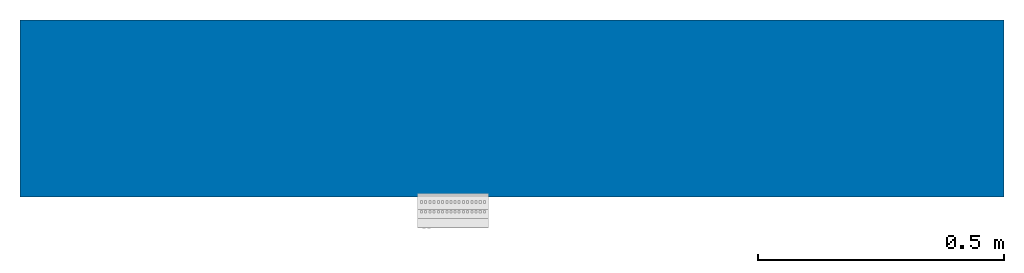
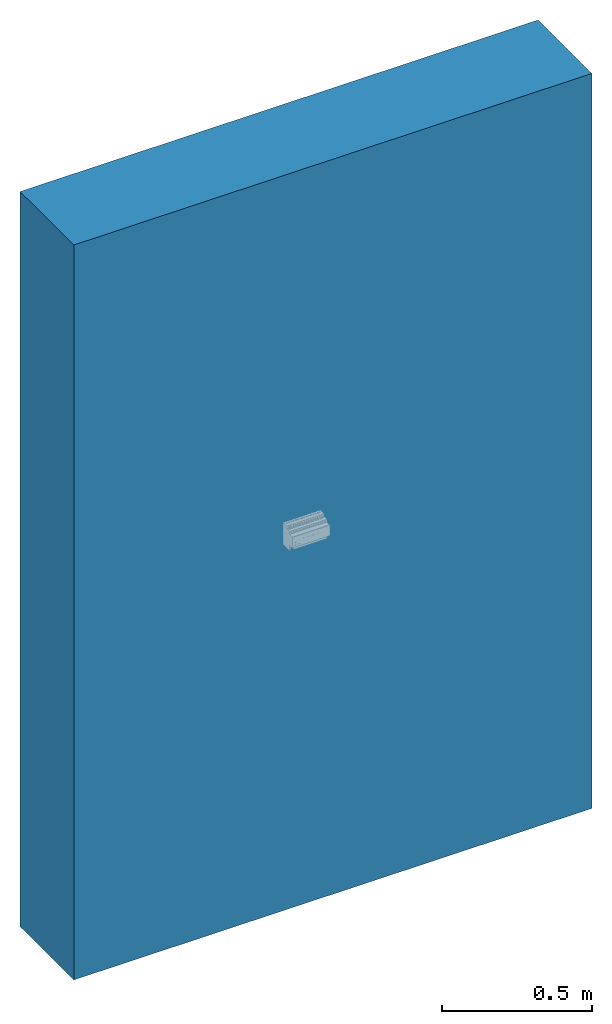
# One storey, incomplete: 1 wall.
"""IFC2X3 building model written with IfcOpenShell, lengths in metres."""

from ifc_helpers import new_model, entity, si_unit, converted_unit, derived_unit, direction, frame, frame_2d, origin, place, context, subcontext, project, spatial, rectangle, extrude, material, layer, layer_set, layer_usage, type_object, element, save


model = new_model("IFC2X3")

# Units and contexts
model_context = context("Model", 3, precision=1e-05, world=origin(), true_north=direction((6.12303176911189e-17, 1.0)))
body_context = subcontext(model_context, "Body", "Model", "MODEL_VIEW")
ifc_project = project(units=[si_unit("LENGTHUNIT", "METRE"), si_unit("AREAUNIT", "SQUARE_METRE"), si_unit("VOLUMEUNIT", "CUBIC_METRE"), converted_unit("PLANEANGLEUNIT", "DEGREE", entity("IfcRatioMeasure", 0.0174532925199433), si_unit("PLANEANGLEUNIT", "RADIAN"), dimensions=[0, 0, 0, 0, 0, 0, 0]), si_unit("MASSUNIT", "GRAM", prefix="KILO"), si_unit("TIMEUNIT", "SECOND"), si_unit("FREQUENCYUNIT", "HERTZ"), si_unit("THERMODYNAMICTEMPERATUREUNIT", "DEGREE_CELSIUS"), derived_unit("THERMALTRANSMITTANCEUNIT", [(si_unit("MASSUNIT", "GRAM", prefix="KILO"), 1), (si_unit("THERMODYNAMICTEMPERATUREUNIT", "KELVIN"), -1), (si_unit("TIMEUNIT", "SECOND"), -3)]), derived_unit("VOLUMETRICFLOWRATEUNIT", [(si_unit("LENGTHUNIT", "METRE"), 3), (si_unit("TIMEUNIT", "SECOND"), -1)]), si_unit("ELECTRICCURRENTUNIT", "AMPERE"), si_unit("ELECTRICVOLTAGEUNIT", "VOLT"), si_unit("POWERUNIT", "WATT"), si_unit("FORCEUNIT", "NEWTON", prefix="KILO"), si_unit("ILLUMINANCEUNIT", "LUX"), si_unit("LUMINOUSFLUXUNIT", "LUMEN"), si_unit("LUMINOUSINTENSITYUNIT", "CANDELA"), derived_unit("USERDEFINED", [(si_unit("MASSUNIT", "GRAM", prefix="KILO"), -1), (si_unit("LENGTHUNIT", "METRE"), -2), (si_unit("TIMEUNIT", "SECOND"), 3), (si_unit("LUMINOUSFLUXUNIT", "LUMEN"), 1)]), derived_unit("LINEARVELOCITYUNIT", [(si_unit("LENGTHUNIT", "METRE"), 1), (si_unit("TIMEUNIT", "SECOND"), -1)]), si_unit("PRESSUREUNIT", "PASCAL"), derived_unit("USERDEFINED", [(si_unit("LENGTHUNIT", "METRE"), -2), (si_unit("MASSUNIT", "GRAM", prefix="KILO"), 1), (si_unit("TIMEUNIT", "SECOND"), -2)])], contexts=[model_context])

# Site, building, storey
site_placement = place(None, origin())
site = spatial("IfcSite", under=ifc_project, at=site_placement, Name="Default", CompositionType="ELEMENT")
building_placement = place(site_placement, origin())
building = spatial("IfcBuilding", under=site, at=building_placement, CompositionType="ELEMENT")
storey_placement = place(building_placement, origin())
storey = spatial("IfcBuildingStorey", under=building, at=storey_placement, Name="Ebene 0", CompositionType="ELEMENT", Elevation=0.0)

# Wall
ifc_material_1 = material(Name="Wärmedämmung - hart")
ifc_layer_1 = layer(ifc_material_1, 0.12)
ifc_material_2 = material(Name="Mauerwerk - Ziegel, verputzt")
ifc_layer_2 = layer(ifc_material_2, 0.24)
ifc_layer_set = layer_set([ifc_layer_1, ifc_layer_2], Name="Basiswand:MW 24.0 WD 12.0")
ifc_layer_usage = layer_usage(ifc_layer_set, "AXIS2", "NEGATIVE", 0.18)
wall_type = type_object("IfcWallType", Name="Basiswand:MW 24.0 WD 12.0", PredefinedType="STANDARD", material=ifc_layer_set)
wall_placement = place(storey_placement, frame((-5.16715116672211, -2.49776293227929, 0.0)))
element("IfcWallStandardCase", 1, at=wall_placement, inside=storey, type_object=wall_type, material=ifc_layer_usage, Name="Basiswand:MW 24.0 WD 12.0", ObjectType="Basiswand:MW 24.0 WD 12.0:3900", context=body_context, shape_type="SweptSolid", body=[
    extrude(rectangle(XDim=2.0, YDim=0.36, at=frame_2d((1.0, -1.94289029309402e-16), x_axis=(-1.0, 0.0))), origin(), (0.0, 0.0, 1.0), 3.0),
])

save(model, "model.ifc")
